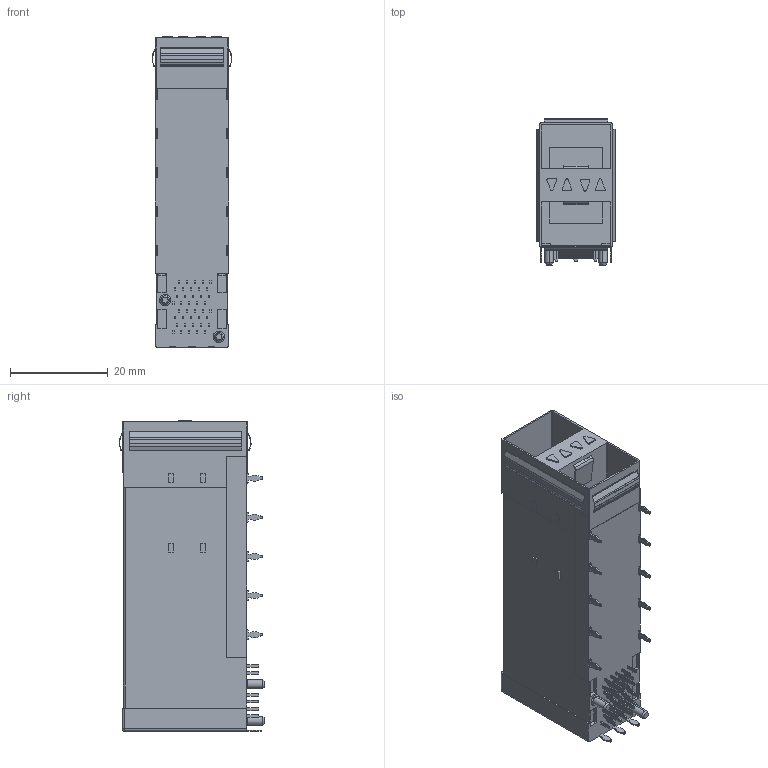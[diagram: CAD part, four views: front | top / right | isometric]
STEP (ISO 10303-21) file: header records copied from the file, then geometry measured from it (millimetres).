
FILE_DESCRIPTION (( 'STEP AP203' ), '1' );
FILE_NAME ('22101_SFP+ 2X1 囀俋絳嫖翐.STEP', '2024-06-05T00:24:39', ( '' ), ( '' ), 'SwSTEP 2.0', 'SolidWorks 2018', '' );
FILE_SCHEMA (( 'CONFIG_CONTROL_DESIGN' ));
Length unit declared in the file: millimetre
Products named in the file (1): 22101_SFP+ 2X1 囀俋絳嫖翐
Bounding box: 16.31 x 29.78 x 63.5 mm (x, y, z)
Volume: 12216.5 mm3; surface area: 11434.3 mm2
Topology: 1 solids, 1 shells, 716 faces, 2028 edges, 1382 vertices
Faces by surface type: plane 506, cylinder 200, cone 8, sphere 2
Entity records: 23327 total; most frequent: CARTESIAN_POINT 4125, ORIENTED_EDGE 4052, DIRECTION 3872, EDGE_CURVE 2026, VECTOR 1614, LINE 1614, VERTEX_POINT 1382, AXIS2_PLACEMENT_3D 1129
